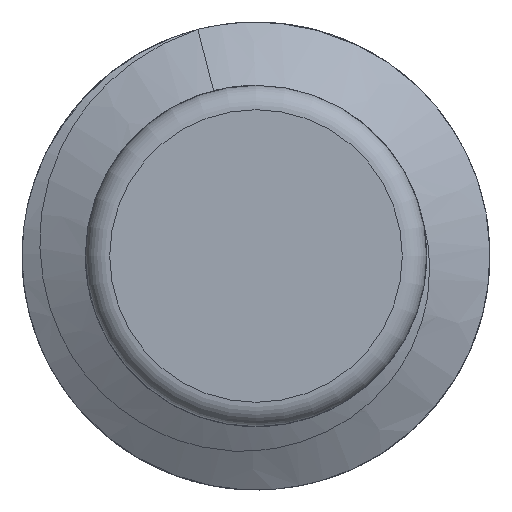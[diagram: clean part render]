
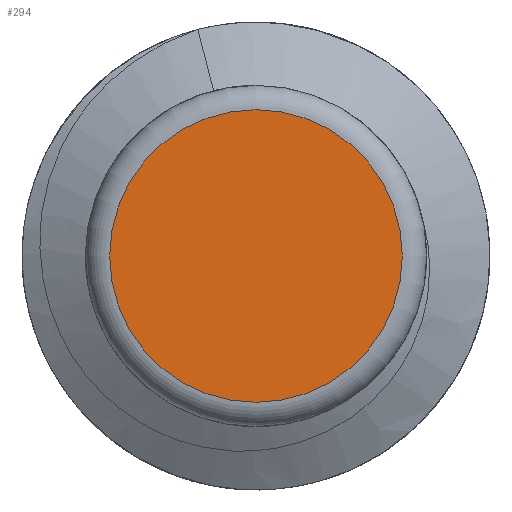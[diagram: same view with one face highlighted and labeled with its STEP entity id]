
A CAD part, front view. The second image highlights one B-rep face of the part: STEP entity #294.
In plain terms, the highlighted planar face has unit normal (0, -1, 0).
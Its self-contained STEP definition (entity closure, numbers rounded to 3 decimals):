
#73=PLANE('',#313);
#96=FACE_OUTER_BOUND('',#119,.T.);
#119=EDGE_LOOP('',(#269));
#124=CIRCLE('',#312,2.4);
#152=VERTEX_POINT('',#3761);
#191=EDGE_CURVE('',#152,#152,#124,.T.);
#269=ORIENTED_EDGE('',*,*,#191,.T.);
#294=ADVANCED_FACE('',(#96),#73,.T.);
#312=AXIS2_PLACEMENT_3D('',#3762,#344,#345);
#313=AXIS2_PLACEMENT_3D('',#3763,#346,#347);
#344=DIRECTION('center_axis',(0.,-1.,0.));
#345=DIRECTION('ref_axis',(0.,0.,1.));
#346=DIRECTION('center_axis',(0.,-1.,0.));
#347=DIRECTION('ref_axis',(0.,0.,1.));
#3761=CARTESIAN_POINT('',(0.,-18.4,2.4));
#3762=CARTESIAN_POINT('Origin',(0.,-18.4,0.));
#3763=CARTESIAN_POINT('Origin',(0.,-18.4,0.));
